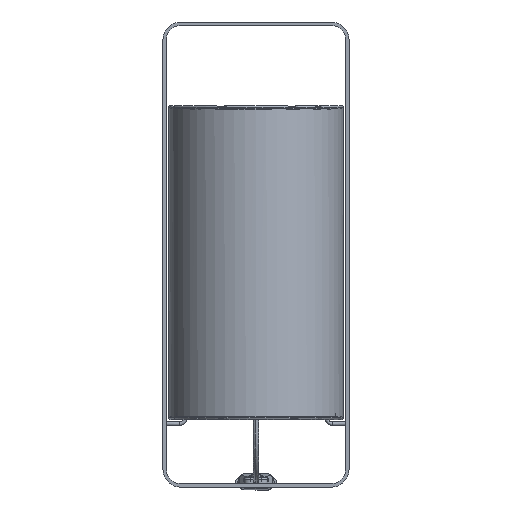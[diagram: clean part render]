
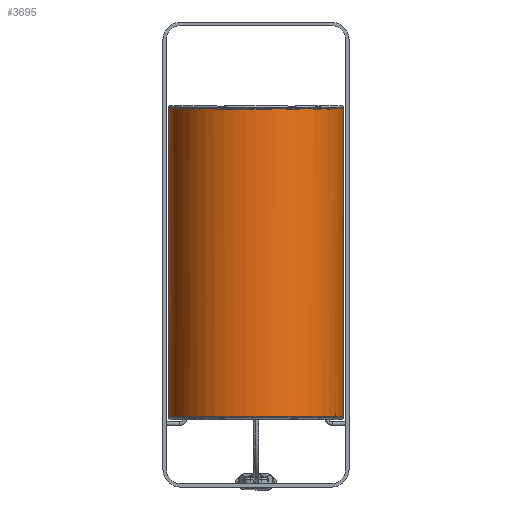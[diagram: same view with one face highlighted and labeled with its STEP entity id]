
A CAD part, front view. The second image highlights one B-rep face of the part: STEP entity #3695.
In plain terms, the highlighted cylindrical face has radius 75 mm (diameter 150 mm), a partial arc.
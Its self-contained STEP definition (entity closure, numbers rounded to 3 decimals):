
#321=FACE_OUTER_BOUND('',#578,.T.);
#578=EDGE_LOOP('',(#2446,#2447,#2448,#2449));
#842=LINE('',#5363,#1096);
#843=LINE('',#5376,#1097);
#1096=VECTOR('',#4346,304.8);
#1097=VECTOR('',#4347,304.8);
#1350=B_SPLINE_CURVE_WITH_KNOTS('',3,(#5351,#5352,#5353,#5354,#5355,#5356,
#5357,#5358,#5359,#5360,#5361),.UNSPECIFIED.,.F.,.F.,(4,1,1,1,1,1,1,1,4),
(0.,0.125,0.25,0.375,0.5,0.625,0.75,0.875,1.),.UNSPECIFIED.);
#1351=B_SPLINE_CURVE_WITH_KNOTS('',3,(#5365,#5366,#5367,#5368,#5369,#5370,
#5371,#5372,#5373,#5374,#5375),.UNSPECIFIED.,.F.,.F.,(4,1,1,1,1,1,1,1,4),
(0.,0.125,0.25,0.375,0.5,0.625,0.75,0.875,1.),.UNSPECIFIED.);
#1542=VERTEX_POINT('',#5349);
#1543=VERTEX_POINT('',#5350);
#1544=VERTEX_POINT('',#5362);
#1545=VERTEX_POINT('',#5364);
#1876=EDGE_CURVE('',#1542,#1543,#1350,.T.);
#1877=EDGE_CURVE('',#1544,#1542,#842,.T.);
#1878=EDGE_CURVE('',#1545,#1544,#1351,.T.);
#1879=EDGE_CURVE('',#1543,#1545,#843,.T.);
#2446=ORIENTED_EDGE('',*,*,#1876,.F.);
#2447=ORIENTED_EDGE('',*,*,#1877,.F.);
#2448=ORIENTED_EDGE('',*,*,#1878,.F.);
#2449=ORIENTED_EDGE('',*,*,#1879,.F.);
#3586=CYLINDRICAL_SURFACE('',#3966,75.);
#3695=ADVANCED_FACE('',(#321),#3586,.T.);
#3966=AXIS2_PLACEMENT_3D('',#5348,#4344,#4345);
#4344=DIRECTION('center_axis',(0.,0.,-1.));
#4345=DIRECTION('ref_axis',(-1.,0.,0.));
#4346=DIRECTION('',(0.,0.,-1.));
#4347=DIRECTION('',(0.,0.,1.));
#5348=CARTESIAN_POINT('Origin',(0.,0.,
1702.626));
#5349=CARTESIAN_POINT('',(75.,0.,59.5));
#5350=CARTESIAN_POINT('',(-75.,0.,59.5));
#5351=CARTESIAN_POINT('Ctrl Pts',(75.,0.,
59.5));
#5352=CARTESIAN_POINT('Ctrl Pts',(75.099,-9.857,59.5));
#5353=CARTESIAN_POINT('Ctrl Pts',(71.049,-29.43,59.5));
#5354=CARTESIAN_POINT('Ctrl Pts',(54.426,-54.419,59.5));
#5355=CARTESIAN_POINT('Ctrl Pts',(29.445,-71.093,59.5));
#5356=CARTESIAN_POINT('Ctrl Pts',(0.,-76.953,
59.5));
#5357=CARTESIAN_POINT('Ctrl Pts',(-29.445,-71.093,59.5));
#5358=CARTESIAN_POINT('Ctrl Pts',(-54.426,-54.419,59.5));
#5359=CARTESIAN_POINT('Ctrl Pts',(-71.049,-29.43,59.5));
#5360=CARTESIAN_POINT('Ctrl Pts',(-75.099,-9.857,59.5));
#5361=CARTESIAN_POINT('Ctrl Pts',(-75.,0.,
59.5));
#5362=CARTESIAN_POINT('',(75.,0.,326.5));
#5363=CARTESIAN_POINT('',(75.,0.,326.5));
#5364=CARTESIAN_POINT('',(-75.,0.,326.5));
#5365=CARTESIAN_POINT('Ctrl Pts',(-75.,0.,
326.5));
#5366=CARTESIAN_POINT('Ctrl Pts',(-75.099,-9.857,326.5));
#5367=CARTESIAN_POINT('Ctrl Pts',(-71.049,-29.43,326.5));
#5368=CARTESIAN_POINT('Ctrl Pts',(-54.426,-54.419,326.5));
#5369=CARTESIAN_POINT('Ctrl Pts',(-29.445,-71.093,326.5));
#5370=CARTESIAN_POINT('Ctrl Pts',(0.,-76.953,
326.5));
#5371=CARTESIAN_POINT('Ctrl Pts',(29.445,-71.093,326.5));
#5372=CARTESIAN_POINT('Ctrl Pts',(54.426,-54.419,326.5));
#5373=CARTESIAN_POINT('Ctrl Pts',(71.049,-29.43,326.5));
#5374=CARTESIAN_POINT('Ctrl Pts',(75.099,-9.857,326.5));
#5375=CARTESIAN_POINT('Ctrl Pts',(75.,0.,
326.5));
#5376=CARTESIAN_POINT('',(-75.,0.,59.5));
